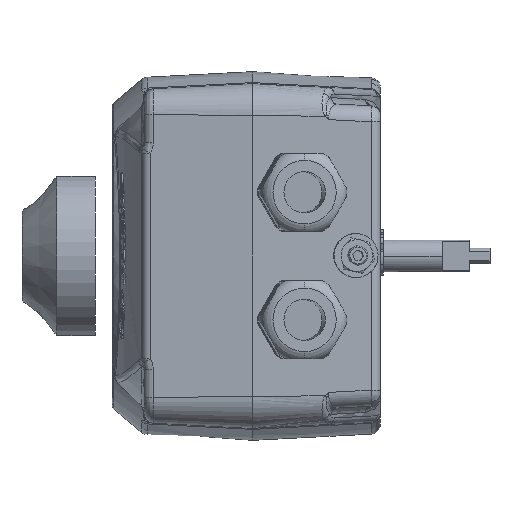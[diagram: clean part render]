
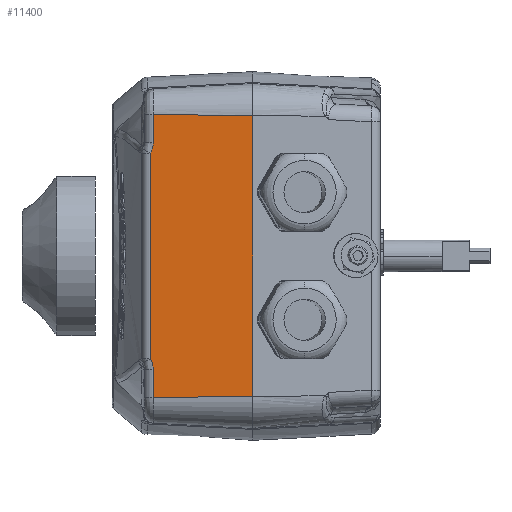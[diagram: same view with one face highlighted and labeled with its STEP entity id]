
A CAD part, left-side view. The second image highlights one B-rep face of the part: STEP entity #11400.
In plain terms, the highlighted planar face has unit normal (-0.999, 0.052, 0).
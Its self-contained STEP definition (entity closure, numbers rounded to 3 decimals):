
#530 = CARTESIAN_POINT ( 'NONE',  ( -124.809, 10.507, 44.349 ) ) ;
#1033 = LINE ( 'NONE', #7006, #36716 ) ;
#1511 = CARTESIAN_POINT ( 'NONE',  ( -124.809, 10.507, -35.511 ) ) ;
#3453 = CARTESIAN_POINT ( 'NONE',  ( -124.809, 10.507, -35.511 ) ) ;
#3457 = CARTESIAN_POINT ( 'NONE',  ( -124.809, 10.507, 35.511 ) ) ;
#3485 = VERTEX_POINT ( 'NONE', #17263 ) ;
#3792 = EDGE_CURVE ( 'NONE', #3485, #37658, #5160, .T. ) ;
#4562 = DIRECTION ( 'NONE',  ( 0., 0., -1. ) ) ;
#4584 = CARTESIAN_POINT ( 'NONE',  ( -124.793, 10.806, -33.485 ) ) ;
#5061 = ORIENTED_EDGE ( 'NONE', *, *, #15306, .T. ) ;
#5138 = ORIENTED_EDGE ( 'NONE', *, *, #10092, .T. ) ;
#5160 = B_SPLINE_CURVE_WITH_KNOTS ( 'NONE', 3,
 ( #7097, #28641, #37573, #530 ),
 .UNSPECIFIED., .F., .F.,
 ( 4, 4 ),
 ( 0.001, 0.032 ),
 .UNSPECIFIED. ) ;
#5193 = DIRECTION ( 'NONE',  ( -0.052, -0.999, 0. ) ) ;
#6406 = VERTEX_POINT ( 'NONE', #3453 ) ;
#6493 = LINE ( 'NONE', #17924, #38326 ) ;
#7006 = CARTESIAN_POINT ( 'NONE',  ( -124.762, 11.403, 54. ) ) ;
#7097 = CARTESIAN_POINT ( 'NONE',  ( -126.442, -20.65, 44.015 ) ) ;
#7654 = CARTESIAN_POINT ( 'NONE',  ( -124.809, 10.507, -34.918 ) ) ;
#8031 = CARTESIAN_POINT ( 'NONE',  ( -124.809, 10.507, 54. ) ) ;
#10092 = EDGE_CURVE ( 'NONE', #32187, #6406, #22226, .T. ) ;
#11400 = ADVANCED_FACE ( 'NONE', ( #27728 ), #30357, .T. ) ;
#11817 = VERTEX_POINT ( 'NONE', #12429 ) ;
#12429 = CARTESIAN_POINT ( 'NONE',  ( -126.442, -20.65, -44.015 ) ) ;
#13265 = CARTESIAN_POINT ( 'NONE',  ( -124.809, 10.507, 44.349 ) ) ;
#13883 = CARTESIAN_POINT ( 'NONE',  ( -124.762, 11.403, -32.135 ) ) ;
#13934 = DIRECTION ( 'NONE',  ( 0., 0., -1. ) ) ;
#14832 = CARTESIAN_POINT ( 'NONE',  ( -125.352, 0.143, -44.651 ) ) ;
#15306 = EDGE_CURVE ( 'NONE', #22392, #32187, #1033, .T. ) ;
#15326 = CARTESIAN_POINT ( 'NONE',  ( -124.805, 10.582, 34.337 ) ) ;
#16669 = ORIENTED_EDGE ( 'NONE', *, *, #26801, .T. ) ;
#17072 = CARTESIAN_POINT ( 'NONE',  ( -126.442, -20.65, -44.015 ) ) ;
#17074 = CARTESIAN_POINT ( 'NONE',  ( -124.788, 10.9, -33.203 ) ) ;
#17263 = CARTESIAN_POINT ( 'NONE',  ( -126.442, -20.65, 44.015 ) ) ;
#17924 = CARTESIAN_POINT ( 'NONE',  ( -124.809, 10.507, -49.371 ) ) ;
#18065 = DIRECTION ( 'NONE',  ( 0., 0., -1. ) ) ;
#19031 = ORIENTED_EDGE ( 'NONE', *, *, #36682, .F. ) ;
#19904 = AXIS2_PLACEMENT_3D ( 'NONE', #39672, #33469, #5193 ) ;
#22226 = B_SPLINE_CURVE_WITH_KNOTS ( 'NONE', 3,
 ( #13883, #26239, #29201, #17074, #4584, #38523, #7654, #1511 ),
 .UNSPECIFIED., .F., .F.,
 ( 4, 2, 2, 4 ),
 ( 0., 0.001, 0.002, 0.004 ),
 .UNSPECIFIED. ) ;
#22392 = VERTEX_POINT ( 'NONE', #25371 ) ;
#22487 = ORIENTED_EDGE ( 'NONE', *, *, #37141, .T. ) ;
#24594 = CARTESIAN_POINT ( 'NONE',  ( -124.77, 11.254, 32.391 ) ) ;
#25371 = CARTESIAN_POINT ( 'NONE',  ( -124.762, 11.403, 32.135 ) ) ;
#25406 = CARTESIAN_POINT ( 'NONE',  ( -124.809, 10.507, -44.349 ) ) ;
#26239 = CARTESIAN_POINT ( 'NONE',  ( -124.77, 11.254, -32.391 ) ) ;
#26288 = LINE ( 'NONE', #8031, #38370 ) ;
#26801 = EDGE_CURVE ( 'NONE', #34434, #22392, #30652, .T. ) ;
#27728 = FACE_OUTER_BOUND ( 'NONE', #29266, .T. ) ;
#27965 = CARTESIAN_POINT ( 'NONE',  ( -124.793, 10.805, 33.486 ) ) ;
#27968 = ORIENTED_EDGE ( 'NONE', *, *, #39511, .T. ) ;
#28096 = CARTESIAN_POINT ( 'NONE',  ( -124.809, 10.507, 34.917 ) ) ;
#28162 = CARTESIAN_POINT ( 'NONE',  ( -124.809, 10.507, 35.511 ) ) ;
#28641 = CARTESIAN_POINT ( 'NONE',  ( -125.899, -10.295, 43.527 ) ) ;
#28807 = DIRECTION ( 'NONE',  ( 0., 0., -1. ) ) ;
#28939 = CARTESIAN_POINT ( 'NONE',  ( -124.762, 11.403, -32.135 ) ) ;
#29201 = CARTESIAN_POINT ( 'NONE',  ( -124.777, 11.124, -32.656 ) ) ;
#29266 = EDGE_LOOP ( 'NONE', ( #29874, #31985, #16669, #5061, #5138, #27968, #22487, #19031 ) ) ;
#29747 = VERTEX_POINT ( 'NONE', #25406 ) ;
#29874 = ORIENTED_EDGE ( 'NONE', *, *, #3792, .T. ) ;
#30357 = PLANE ( 'NONE',  #19904 ) ;
#30652 = B_SPLINE_CURVE_WITH_KNOTS ( 'NONE', 3,
 ( #3457, #28096, #15326, #27965, #31182, #36767, #24594, #37279 ),
 .UNSPECIFIED., .F., .F.,
 ( 4, 2, 2, 4 ),
 ( 0., 0.002, 0.003, 0.004 ),
 .UNSPECIFIED. ) ;
#31182 = CARTESIAN_POINT ( 'NONE',  ( -124.788, 10.899, 33.204 ) ) ;
#31838 = CARTESIAN_POINT ( 'NONE',  ( -126.442, -20.65, 54. ) ) ;
#31985 = ORIENTED_EDGE ( 'NONE', *, *, #33843, .T. ) ;
#32187 = VERTEX_POINT ( 'NONE', #28939 ) ;
#33469 = DIRECTION ( 'NONE',  ( -0.999, 0.052, 0. ) ) ;
#33554 = CARTESIAN_POINT ( 'NONE',  ( -124.809, 10.507, -44.349 ) ) ;
#33843 = EDGE_CURVE ( 'NONE', #37658, #34434, #26288, .T. ) ;
#34434 = VERTEX_POINT ( 'NONE', #28162 ) ;
#36682 = EDGE_CURVE ( 'NONE', #3485, #11817, #37025, .T. ) ;
#36716 = VECTOR ( 'NONE', #28807, 1000. ) ;
#36767 = CARTESIAN_POINT ( 'NONE',  ( -124.777, 11.124, 32.657 ) ) ;
#36941 = B_SPLINE_CURVE_WITH_KNOTS ( 'NONE', 3,
 ( #33554, #14832, #39628, #17072 ),
 .UNSPECIFIED., .F., .F.,
 ( 4, 4 ),
 ( -0.026, 0.005 ),
 .UNSPECIFIED. ) ;
#37025 = LINE ( 'NONE', #31838, #38480 ) ;
#37141 = EDGE_CURVE ( 'NONE', #29747, #11817, #36941, .T. ) ;
#37279 = CARTESIAN_POINT ( 'NONE',  ( -124.762, 11.403, 32.135 ) ) ;
#37573 = CARTESIAN_POINT ( 'NONE',  ( -125.352, 0.143, 44.651 ) ) ;
#37658 = VERTEX_POINT ( 'NONE', #13265 ) ;
#38326 = VECTOR ( 'NONE', #18065, 1000. ) ;
#38370 = VECTOR ( 'NONE', #4562, 1000. ) ;
#38480 = VECTOR ( 'NONE', #13934, 1000. ) ;
#38523 = CARTESIAN_POINT ( 'NONE',  ( -124.805, 10.582, -34.337 ) ) ;
#39511 = EDGE_CURVE ( 'NONE', #6406, #29747, #6493, .T. ) ;
#39628 = CARTESIAN_POINT ( 'NONE',  ( -125.899, -10.295, -43.527 ) ) ;
#39672 = CARTESIAN_POINT ( 'NONE',  ( -126.442, -20.65, 54. ) ) ;
